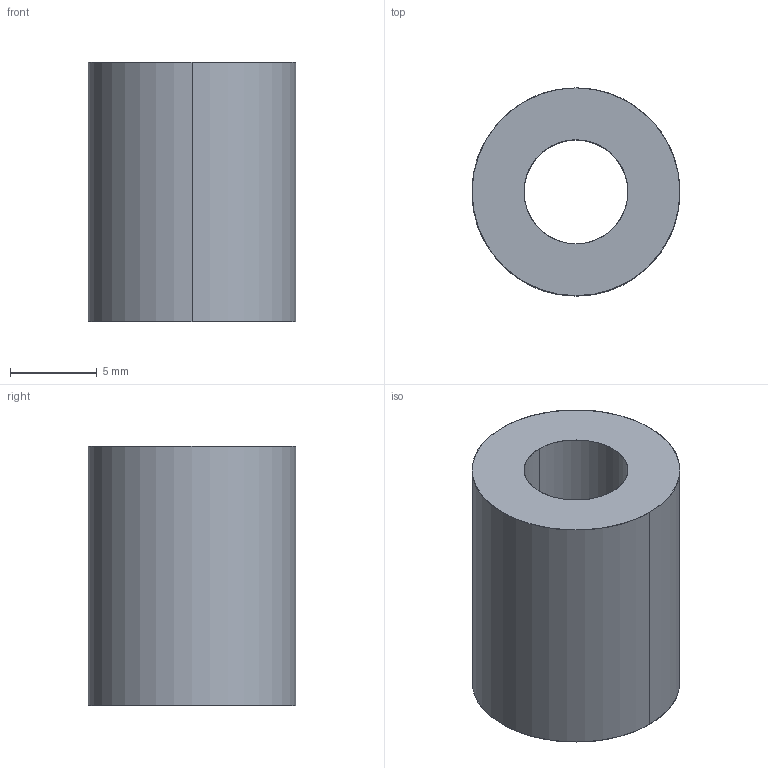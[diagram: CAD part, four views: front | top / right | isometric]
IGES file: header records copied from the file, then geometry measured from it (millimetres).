
Global section: file name: E:\UnigraphicsGraphicData\MISUMI_PRESS-PARTS\IGES\3d_swg12-15_00744_r00.igs; native system: NX V5.0; preprocessor: UGS NX IGES V5.0; author: MISUMI; date: 20110105.163256; units: millimetre
Bounding box: 12 x 12 x 15 mm (x, y, z)
Surface area: 1018.4 mm2 (no closed solid volume)
Topology: 0 solids, 0 shells, 6 faces, 48 edges, 48 vertices
Faces by surface type: bspline 6
